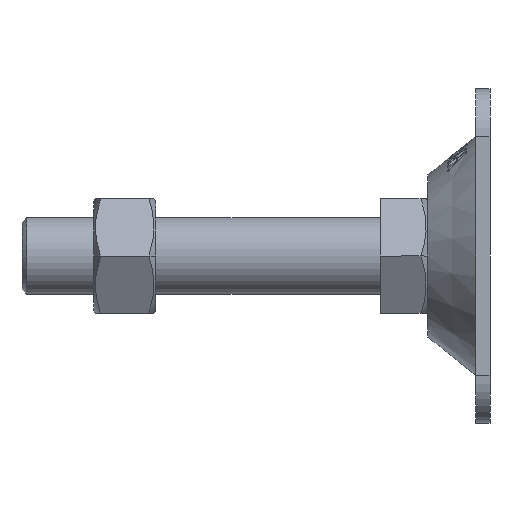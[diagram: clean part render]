
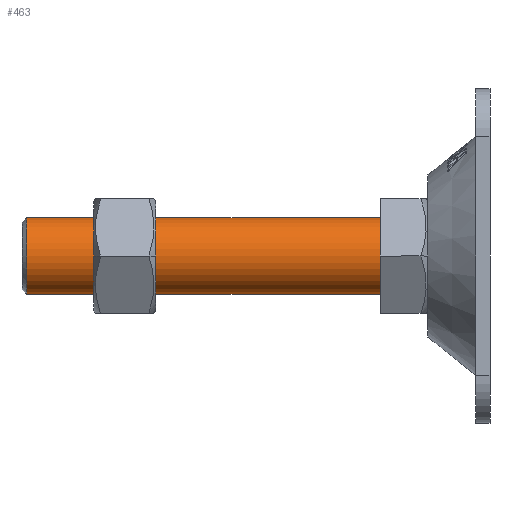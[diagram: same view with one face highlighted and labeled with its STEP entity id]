
A CAD part, left-side view. The second image highlights one B-rep face of the part: STEP entity #463.
In plain terms, the highlighted cylindrical face has radius 8 mm (diameter 16 mm), a partial arc.
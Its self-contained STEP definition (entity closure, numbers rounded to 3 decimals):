
#6 = ORIENTED_EDGE ( 'NONE', *, *, #5896, .T. ) ;
#13 = DIRECTION ( 'NONE',  ( 0., -1., 0. ) ) ;
#193 = DIRECTION ( 'NONE',  ( 0., 0., -1. ) ) ;
#215 = LINE ( 'NONE', #2027, #2797 ) ;
#240 = CARTESIAN_POINT ( 'NONE',  ( 0., 84., 0. ) ) ;
#326 = DIRECTION ( 'NONE',  ( 0., 1., 0. ) ) ;
#415 = CARTESIAN_POINT ( 'NONE',  ( 0., 84., -8. ) ) ;
#463 = ADVANCED_FACE ( 'NONE', ( #3882 ), #4860, .T. ) ;
#554 = CIRCLE ( 'NONE', #2225, 8. ) ;
#594 = VERTEX_POINT ( 'NONE', #4558 ) ;
#731 = CIRCLE ( 'NONE', #6048, 8. ) ;
#881 = CARTESIAN_POINT ( 'NONE',  ( 0., 8., 8. ) ) ;
#945 = ORIENTED_EDGE ( 'NONE', *, *, #4678, .T. ) ;
#1143 = ORIENTED_EDGE ( 'NONE', *, *, #6004, .F. ) ;
#1208 = DIRECTION ( 'NONE',  ( 0., 0., 1. ) ) ;
#1467 = VERTEX_POINT ( 'NONE', #4037 ) ;
#1570 = DIRECTION ( 'NONE',  ( 0., -1., 0. ) ) ;
#2027 = CARTESIAN_POINT ( 'NONE',  ( 0., 8., -8. ) ) ;
#2115 = DIRECTION ( 'NONE',  ( 0., -1., 0. ) ) ;
#2225 = AXIS2_PLACEMENT_3D ( 'NONE', #240, #2115, #4004 ) ;
#2303 = VERTEX_POINT ( 'NONE', #3462 ) ;
#2509 = VECTOR ( 'NONE', #13, 1000. ) ;
#2797 = VECTOR ( 'NONE', #3844, 1000. ) ;
#3459 = CARTESIAN_POINT ( 'NONE',  ( 0., 8., 0. ) ) ;
#3462 = CARTESIAN_POINT ( 'NONE',  ( 0., 84., 8. ) ) ;
#3585 = AXIS2_PLACEMENT_3D ( 'NONE', #3459, #1570, #193 ) ;
#3844 = DIRECTION ( 'NONE',  ( 0., -1., 0. ) ) ;
#3849 = EDGE_CURVE ( 'NONE', #2303, #4261, #554, .T. ) ;
#3882 = FACE_OUTER_BOUND ( 'NONE', #4916, .T. ) ;
#3919 = ORIENTED_EDGE ( 'NONE', *, *, #3849, .T. ) ;
#4004 = DIRECTION ( 'NONE',  ( 0., 0., -1. ) ) ;
#4037 = CARTESIAN_POINT ( 'NONE',  ( 0., 10., 8. ) ) ;
#4261 = VERTEX_POINT ( 'NONE', #415 ) ;
#4558 = CARTESIAN_POINT ( 'NONE',  ( 0., 10., -8. ) ) ;
#4678 = EDGE_CURVE ( 'NONE', #4261, #594, #215, .T. ) ;
#4860 = CYLINDRICAL_SURFACE ( 'NONE', #3585, 8. ) ;
#4916 = EDGE_LOOP ( 'NONE', ( #1143, #3919, #945, #6 ) ) ;
#5405 = CARTESIAN_POINT ( 'NONE',  ( 0., 10., 0. ) ) ;
#5896 = EDGE_CURVE ( 'NONE', #594, #1467, #731, .T. ) ;
#6004 = EDGE_CURVE ( 'NONE', #2303, #1467, #6055, .T. ) ;
#6048 = AXIS2_PLACEMENT_3D ( 'NONE', #5405, #326, #1208 ) ;
#6055 = LINE ( 'NONE', #881, #2509 ) ;
